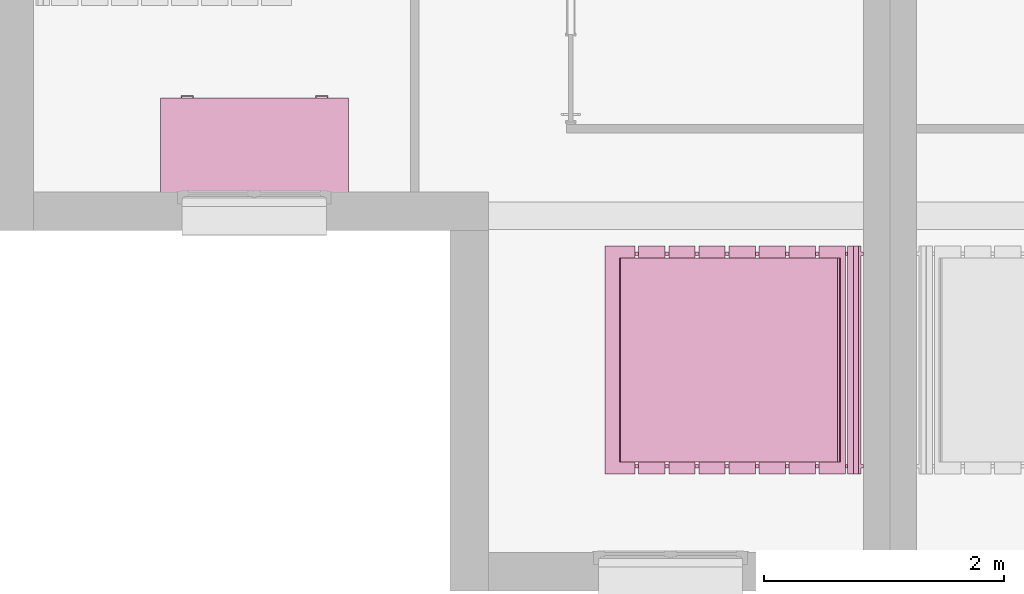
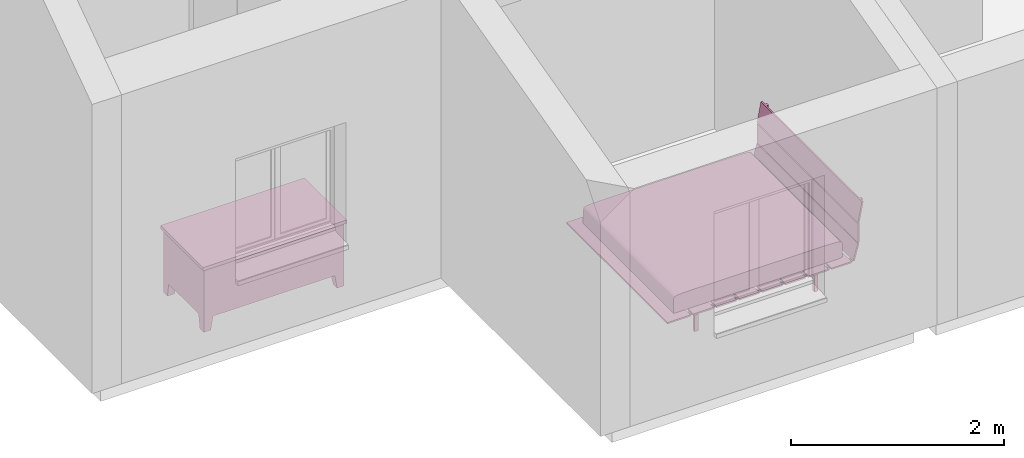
# One storey, part 42 of 50: 2 furnishings.
"""IFC2X3 building model written with IfcOpenShell, lengths in metres."""

from ifc_helpers import new_model, entity, si_unit, converted_unit, derived_unit, direction, frame, frame_2d, origin, origin_2d_with_axis, place, context, subcontext, project, spatial, polyline, circle_curve, parameter, trimmed, segment, composite_curve, rectangle, outline, extrude, faceted_brep, source, transform, mapped, material, material_list, type_object, type_shapes, element, save


model = new_model("IFC2X3")

# Units and contexts
model_context = context("Model", 3, precision=1e-05, world=origin(), true_north=direction((6.12303176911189e-17, 1.0)))
context_of_model = context(None, 3, precision=1e-05, world=origin(), true_north=direction((6.12303176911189e-17, 1.0)))
body_context = subcontext(model_context, "Body", "Model", "MODEL_VIEW")
ifc_project = project(units=[si_unit("LENGTHUNIT", "METRE"), si_unit("AREAUNIT", "SQUARE_METRE"), si_unit("VOLUMEUNIT", "CUBIC_METRE"), converted_unit("PLANEANGLEUNIT", "DEGREE", entity("IfcRatioMeasure", 0.0174532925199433), si_unit("PLANEANGLEUNIT", "RADIAN"), dimensions=[0, 0, 0, 0, 0, 0, 0]), si_unit("MASSUNIT", "GRAM", prefix="KILO"), si_unit("TIMEUNIT", "SECOND"), si_unit("FREQUENCYUNIT", "HERTZ"), si_unit("THERMODYNAMICTEMPERATUREUNIT", "DEGREE_CELSIUS"), derived_unit("THERMALTRANSMITTANCEUNIT", [(si_unit("MASSUNIT", "GRAM", prefix="KILO"), 1), (si_unit("THERMODYNAMICTEMPERATUREUNIT", "KELVIN"), -1), (si_unit("TIMEUNIT", "SECOND"), -3)]), derived_unit("VOLUMETRICFLOWRATEUNIT", [(si_unit("LENGTHUNIT", "METRE"), 3), (si_unit("TIMEUNIT", "SECOND"), -1)]), si_unit("ELECTRICCURRENTUNIT", "AMPERE"), si_unit("ELECTRICVOLTAGEUNIT", "VOLT"), si_unit("POWERUNIT", "WATT"), si_unit("FORCEUNIT", "NEWTON", prefix="KILO"), si_unit("ILLUMINANCEUNIT", "LUX"), si_unit("LUMINOUSFLUXUNIT", "LUMEN"), si_unit("LUMINOUSINTENSITYUNIT", "CANDELA"), si_unit("PRESSUREUNIT", "PASCAL")], contexts=[model_context, context_of_model])

# Site, building, storey
site_placement = place(None, origin())
site = spatial("IfcSite", under=ifc_project, at=site_placement, Name="Surface", CompositionType="ELEMENT")
building_placement = place(site_placement, origin())
building = spatial("IfcBuilding", under=site, at=building_placement, CompositionType="ELEMENT")
storey_placement = place(building_placement, frame((0.0, 0.0, 2.82)))
storey = spatial("IfcBuildingStorey", under=building, at=storey_placement, Name="ETAGE", CompositionType="ELEMENT", Elevation=2.82)

# Furnishings
ifc_material_1 = material(Name="Textile - Bleu pâle")
ifc_material_2 = material(Name="Bois - Teck")
ifc_material_3 = material(Name="Plastique - Noir")
ifc_material_list_1 = material_list([ifc_material_1, ifc_material_2, ifc_material_3])
ifc_material_list_2 = material_list([ifc_material_1, ifc_material_2, ifc_material_3])
furniture_type_1 = type_object("IfcFurnitureType", Name="1900 mm x 2000 mm", AssemblyPlace="NOTDEFINED", material=ifc_material_list_2)
shared_shape_1 = source(origin(), body_context, "Body", "SweptSolid", [
    extrude(outline(composite_curve([segment(polyline([(0.753947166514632, -0.0964613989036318), (0.883258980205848, -0.0964613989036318)]), True, "CONTINUOUS"), segment(trimmed(circle_curve(frame_2d((0.82804087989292, 1.1581587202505), x_axis=(0.999878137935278, -0.0156111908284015)), 1.25583465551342), [parameter(273.414556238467)], [parameter(275.726345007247)], True, "PARAMETER"), True, "CONTINUOUS"), segment(trimmed(circle_curve(frame_2d((0.929150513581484, -0.0379486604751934), x_axis=(0.999878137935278, -0.0156111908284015)), 0.0554613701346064), [parameter(275.726345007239)], [parameter(297.64810869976)], True, "PARAMETER"), True, "CONTINUOUS"), segment(trimmed(circle_curve(frame_2d((0.943544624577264, -0.0665015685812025), x_axis=(0.999878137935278, -0.0156111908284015)), 0.0234854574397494), [parameter(297.648108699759)], [parameter(348.570161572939)], True, "PARAMETER"), True, "CONTINUOUS"), segment(trimmed(circle_curve(frame_2d((0.767446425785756, -0.0280276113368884), x_axis=(0.999878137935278, -0.0156111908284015)), 0.203737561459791), [parameter(348.570161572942)], [parameter(3.56222124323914e-13)], True, "PARAMETER"), True, "CONTINUOUS"), segment(polyline([(0.971159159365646, -0.0312081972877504), (0.97301851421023, 0.0878812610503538)]), True, "CONTINUOUS"), segment(polyline([(0.97301851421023, 0.0878812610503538), (0.971187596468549, 0.10002359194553)]), True, "CONTINUOUS"), segment(polyline([(0.971187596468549, 0.10002359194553), (0.955059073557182, 0.102294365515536)]), True, "CONTINUOUS"), segment(polyline([(0.955059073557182, 0.102294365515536), (-0.834665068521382, 0.130237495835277)]), True, "CONTINUOUS"), segment(polyline([(-0.834665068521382, 0.130237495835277), (-0.854928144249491, 0.12651595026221)]), True, "CONTINUOUS"), segment(polyline([(-0.854928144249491, 0.12651595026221), (-0.861114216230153, 0.118536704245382)]), True, "CONTINUOUS"), segment(polyline([(-0.861114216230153, 0.118536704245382), (-0.865626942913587, 0.0883228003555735)]), True, "CONTINUOUS"), segment(polyline([(-0.865626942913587, 0.0883228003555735), (-0.866982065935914, 0.00152878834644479)]), True, "CONTINUOUS"), segment(polyline([(-0.866982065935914, 0.00152878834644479), (-0.863446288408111, -0.0308297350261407)]), True, "CONTINUOUS"), segment(polyline([(-0.863446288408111, -0.0308297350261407), (-0.857669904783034, -0.0490905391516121)]), True, "CONTINUOUS"), segment(polyline([(-0.857669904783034, -0.0490905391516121), (-0.843687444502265, -0.0594036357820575)]), True, "CONTINUOUS"), segment(polyline([(-0.843687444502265, -0.0594036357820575), (-0.817521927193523, -0.0658690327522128)]), True, "CONTINUOUS"), segment(polyline([(-0.817521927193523, -0.0658690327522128), (-0.696416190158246, -0.0738167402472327)]), True, "CONTINUOUS"), segment(polyline([(-0.696416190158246, -0.0738167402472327), (0.753947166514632, -0.0964613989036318)]), True, "CONTINUOUS")], self_intersect=False)), frame((-0.85, -1.05656455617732, 0.367191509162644), z_axis=(1.0, 0.0, 0.0), x_axis=(0.0, -0.999878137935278, -0.0156111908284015)), (0.0, 0.0, 1.0), 1.7),
    extrude(rectangle(XDim=0.249999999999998, YDim=1.9, at=origin_2d_with_axis()), frame((0.0, -2.02499620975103, 0.232311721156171), z_axis=(0.0, 0.0, 1.0), x_axis=(0.0, 1.0, 0.0)), (0.0, 0.0, 1.0), 0.0176882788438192),
    extrude(outline(polyline([(-0.00463256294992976, -0.115042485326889), (0.0130278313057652, -0.115042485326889), (0.00471132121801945, 0.115371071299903), (-0.0131065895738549, 0.114713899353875), (-0.00463256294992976, -0.115042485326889)])), frame((-0.95, -0.051324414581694, 0.783374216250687), z_axis=(1.0, 0.0, 0.0), x_axis=(0.0, 0.975885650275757, -0.218282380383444)), (0.0, 0.0, 1.0), 1.9),
    extrude(rectangle(XDim=0.219999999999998, YDim=1.9, at=frame_2d((-1.38777878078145e-16, 0.0), x_axis=(1.0, 0.0))), frame((0.0, -1.75999620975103, 0.232311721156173), z_axis=(0.0, 0.0, 1.0), x_axis=(0.0, 1.0, 0.0)), (0.0, 0.0, 1.0), 0.0176882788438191),
    extrude(rectangle(XDim=0.219999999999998, YDim=1.9, at=frame_2d((-1.31838984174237e-16, 0.0), x_axis=(1.0, 0.0))), frame((0.0, -1.50999620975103, 0.232311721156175), z_axis=(0.0, 0.0, 1.0), x_axis=(0.0, 1.0, 0.0)), (0.0, 0.0, 1.0), 0.017688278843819),
    extrude(rectangle(XDim=0.219999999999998, YDim=1.9, at=frame_2d((-1.38777878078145e-16, 0.0), x_axis=(1.0, 0.0))), frame((0.0, -1.25999620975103, 0.232311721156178), z_axis=(0.0, 0.0, 1.0), x_axis=(0.0, 1.0, 0.0)), (0.0, 0.0, 1.0), 0.0176882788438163),
    extrude(rectangle(XDim=0.219999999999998, YDim=1.9, at=frame_2d((6.93889390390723e-17, 0.0), x_axis=(1.0, 0.0))), frame((0.0, -1.00999620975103, 0.232311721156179), z_axis=(0.0, 0.0, 1.0), x_axis=(0.0, 1.0, 0.0)), (0.0, 0.0, 1.0), 0.0176882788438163),
    extrude(rectangle(XDim=0.22, YDim=1.9, at=origin_2d_with_axis()), frame((0.0, -0.759996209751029, 0.232311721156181), z_axis=(0.0, 0.0, 1.0), x_axis=(0.0, 1.0, 0.0)), (0.0, 0.0, 1.0), 0.0176882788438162),
    extrude(rectangle(XDim=0.22, YDim=1.9, at=origin_2d_with_axis()), frame((0.0, -0.509996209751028, 0.232311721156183), z_axis=(0.0, 0.0, 1.0), x_axis=(0.0, 1.0, 0.0)), (0.0, 0.0, 1.0), 0.0176882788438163),
    extrude(rectangle(XDim=0.22, YDim=1.9, at=origin_2d_with_axis()), frame((0.0, -0.259996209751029, 0.232311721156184), z_axis=(0.0, 0.0, 1.0), x_axis=(0.0, 1.0, 0.0)), (0.0, 0.0, 1.0), 0.0176882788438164),
    extrude(rectangle(XDim=0.0183684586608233, YDim=1.9, at=origin_2d_with_axis()), frame((0.0, -0.0735868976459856, 0.443802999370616), z_axis=(0.0, 0.0, 1.0), x_axis=(0.0, 1.0, 0.0)), (0.0, 0.0, 1.0), 0.214481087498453),
    extrude(outline(polyline([(-0.0111603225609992, -0.093944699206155), (0.00684599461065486, -0.093944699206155), (0.0109625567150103, 0.0940897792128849), (-0.00664822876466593, 0.093799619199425), (-0.0111603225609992, -0.093944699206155)])), frame((-0.95, -0.100341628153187, 0.340588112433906), z_axis=(1.0, 0.0, 0.0), x_axis=(0.0, 0.969329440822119, -0.245764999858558)), (0.0, 0.0, 1.0), 1.9),
    extrude(rectangle(XDim=0.0421792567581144, YDim=0.0299999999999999, at=frame_2d((0.0, 1.35308431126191e-16), x_axis=(1.0, 0.0))), frame((-0.884999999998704, -1.80439834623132, 0.0), z_axis=(0.0, 0.0, 1.0), x_axis=(0.0, -1.0, 0.0)), (0.0, 0.0, 1.0), 0.204645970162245),
    extrude(rectangle(XDim=0.0421792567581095, YDim=0.0299999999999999, at=frame_2d((3.29597460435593e-17, 1.35308431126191e-16), x_axis=(1.0, 0.0))), frame((-0.884999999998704, -0.505017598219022, 0.0), z_axis=(0.0, 0.0, 1.0), x_axis=(0.0, -1.0, 0.0)), (0.0, 0.0, 1.0), 0.204645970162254),
    extrude(rectangle(XDim=0.0421792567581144, YDim=0.0299999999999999, at=frame_2d((2.70616862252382e-16, 0.0), x_axis=(1.0, 0.0))), frame((0.885000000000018, -1.80439834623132, 0.0), z_axis=(0.0, 0.0, 1.0), x_axis=(0.0, 1.0, 0.0)), (0.0, 0.0, 1.0), 0.204645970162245),
    extrude(rectangle(XDim=0.0421792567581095, YDim=0.0299999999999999, at=frame_2d((-3.29597460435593e-17, 0.0), x_axis=(1.0, 0.0))), frame((0.885000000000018, -0.505017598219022, 0.0), z_axis=(0.0, 0.0, 1.0), x_axis=(0.0, 1.0, 0.0)), (0.0, 0.0, 1.0), 0.204645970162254),
    extrude(outline(composite_curve([segment(polyline([(-0.333462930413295, -0.507724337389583), (-0.311650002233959, -0.507724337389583)]), True, "CONTINUOUS"), segment(polyline([(-0.311650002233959, -0.507724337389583), (-0.317185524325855, -0.272424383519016)]), True, "CONTINUOUS"), segment(polyline([(-0.317185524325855, -0.272424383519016), (-0.363847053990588, -0.050782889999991)]), True, "CONTINUOUS"), segment(polyline([(-0.363847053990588, -0.050782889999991), (-0.350538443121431, 0.161194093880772)]), True, "CONTINUOUS"), segment(polyline([(-0.350538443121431, 0.161194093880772), (1.5836166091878, 0.569312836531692)]), True, "CONTINUOUS"), segment(polyline([(1.5836166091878, 0.569312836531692), (1.55147511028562, 0.589891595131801)]), True, "CONTINUOUS"), segment(polyline([(1.55147511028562, 0.589891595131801), (-0.355855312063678, 0.188346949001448)]), True, "CONTINUOUS"), segment(trimmed(circle_curve(frame_2d((-0.350332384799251, 0.162113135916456), x_axis=(0.978549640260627, 0.206011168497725)), 0.0268088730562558), [parameter(90.0)], [parameter(167.367566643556)], True, "PARAMETER"), True, "CONTINUOUS"), segment(polyline([(-0.377138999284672, 0.162461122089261), (-0.386037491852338, -0.0554545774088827)]), True, "CONTINUOUS"), segment(polyline([(-0.386037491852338, -0.0554545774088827), (-0.339375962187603, -0.277096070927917)]), True, "CONTINUOUS"), segment(polyline([(-0.339375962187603, -0.277096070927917), (-0.333462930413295, -0.507724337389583)]), True, "CONTINUOUS")], self_intersect=False)), frame((-0.899999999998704, -0.430906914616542, 0.462262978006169), z_axis=(1.0, 0.0, 0.0), x_axis=(0.0, -0.978549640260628, 0.206011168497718)), (0.0, 0.0, 1.0), 0.0299999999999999),
    extrude(outline(composite_curve([segment(polyline([(-0.333462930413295, -0.507724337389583), (-0.311650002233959, -0.507724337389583)]), True, "CONTINUOUS"), segment(polyline([(-0.311650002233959, -0.507724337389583), (-0.317185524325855, -0.272424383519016)]), True, "CONTINUOUS"), segment(polyline([(-0.317185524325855, -0.272424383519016), (-0.363847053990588, -0.0507828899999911)]), True, "CONTINUOUS"), segment(polyline([(-0.363847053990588, -0.0507828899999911), (-0.350538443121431, 0.161194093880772)]), True, "CONTINUOUS"), segment(polyline([(-0.350538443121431, 0.161194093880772), (1.5836166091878, 0.569312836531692)]), True, "CONTINUOUS"), segment(polyline([(1.5836166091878, 0.569312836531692), (1.55147511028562, 0.5898915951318)]), True, "CONTINUOUS"), segment(polyline([(1.55147511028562, 0.5898915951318), (-0.355855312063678, 0.188346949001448)]), True, "CONTINUOUS"), segment(trimmed(circle_curve(frame_2d((-0.350332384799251, 0.162113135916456), x_axis=(0.978549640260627, 0.206011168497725)), 0.0268088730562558), [parameter(90.0)], [parameter(167.367566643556)], True, "PARAMETER"), True, "CONTINUOUS"), segment(polyline([(-0.377138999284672, 0.162461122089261), (-0.386037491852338, -0.0554545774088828)]), True, "CONTINUOUS"), segment(polyline([(-0.386037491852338, -0.0554545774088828), (-0.339375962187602, -0.277096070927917)]), True, "CONTINUOUS"), segment(polyline([(-0.339375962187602, -0.277096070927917), (-0.333462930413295, -0.507724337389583)]), True, "CONTINUOUS")], self_intersect=False)), frame((0.870000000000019, -0.430906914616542, 0.462262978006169), z_axis=(1.0, 0.0, 0.0), x_axis=(0.0, -0.978549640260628, 0.206011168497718)), (0.0, 0.0, 1.0), 0.0299999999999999),
])
type_shapes(furniture_type_1, [shared_shape_1])
furnishing_1_placement = place(storey_placement, frame((68.6146263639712, 78.8077566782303, 0.0199999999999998), z_axis=(0.0, 0.0, 1.0), x_axis=(0.0, -1.0, 0.0)))
element("IfcFurnishingElement", 1, at=furnishing_1_placement, inside=storey, type_object=furniture_type_1, material=ifc_material_list_1, Name="Lit à lattes:1900 mm x 2000 mm", ObjectType="1900 mm x 2000 mm", context=body_context, shape_type="MappedRepresentation", body=[
    mapped(shared_shape_1, transform((0.0, 0.0, 0.0), scale=1.0)),
])
ifc_material_4 = material(Name="Bois - Mélaminé ivoire")
ifc_material_5 = material(Name="Métal - Chrome")
ifc_material_6 = material(Name="Bois - Cerisier")
ifc_material_list_3 = material_list([ifc_material_4, ifc_material_5, ifc_material_6])
ifc_material_list_4 = material_list([ifc_material_4, ifc_material_5, ifc_material_6])
furniture_type_2 = type_object("IfcFurnitureType", Name="1525 mm x 762 mm", AssemblyPlace="NOTDEFINED", material=ifc_material_list_4)
shared_shape_2 = source(origin(), body_context, "Body", "Brep", [
    faceted_brep([(1.13765, -0.761999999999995, 0.70485), (1.50595, -0.761999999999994, 0.70485), (1.50595, -0.761999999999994, 0.60325), (1.13765, -0.761999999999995, 0.60325), (1.13765, -0.774699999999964, 0.60325), (1.13765, -0.774699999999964, 0.70485), (1.50595, -0.774699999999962, 0.60325), (1.50595, -0.774699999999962, 0.70485)], [[[0, 1, 2, 3]], [[3, 4, 5, 0]], [[2, 6, 4, 3]], [[1, 7, 6, 2]], [[0, 5, 7, 1]], [[5, 4, 6, 7]]]),
    faceted_brep([(1.50595, -0.774699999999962, 0.5842), (1.13765, -0.774699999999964, 0.5842), (1.13765, -0.774699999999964, 0.17105), (1.50595, -0.774699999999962, 0.17105), (1.13765, -0.761999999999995, 0.5842), (1.50595, -0.761999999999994, 0.5842), (1.13765, -0.761999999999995, 0.17105), (1.50595, -0.761999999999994, 0.17105)], [[[0, 1, 2, 3]], [[4, 1, 0, 5]], [[6, 2, 1, 4]], [[7, 3, 2, 6]], [[5, 0, 3, 7]], [[5, 7, 6, 4]]]),
    faceted_brep([(0.38735, -0.761999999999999, 0.70485), (0.38735, -0.761999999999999, 0.60285), (0.01905, -0.761999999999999, 0.60285), (0.01905, -0.761999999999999, 0.70485), (0.01905, -0.774700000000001, 0.70485), (0.38735, -0.774700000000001, 0.70485), (0.01905, -0.774700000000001, 0.60285), (0.38735, -0.774700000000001, 0.60285)], [[[0, 1, 2, 3]], [[3, 4, 5, 0]], [[2, 6, 4, 3]], [[1, 7, 6, 2]], [[0, 5, 7, 1]], [[5, 4, 6, 7]]]),
    faceted_brep([(0.01905, -0.774700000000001, 0.5838), (0.01905, -0.774700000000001, 0.4822), (0.38735, -0.774700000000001, 0.4822), (0.38735, -0.774700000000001, 0.5838), (0.01905, -0.761999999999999, 0.4822), (0.01905, -0.761999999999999, 0.5838), (0.38735, -0.761999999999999, 0.4822), (0.38735, -0.761999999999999, 0.5838)], [[[0, 1, 2, 3]], [[4, 1, 0, 5]], [[6, 2, 1, 4]], [[7, 3, 2, 6]], [[5, 0, 3, 7]], [[5, 7, 6, 4]]]),
    faceted_brep([(0.01905, -0.761999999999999, 0.17105), (0.01905, -0.774700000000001, 0.17105), (0.01905, -0.774700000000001, 0.3425), (0.01905, -0.761999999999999, 0.3425), (0.38735, -0.761999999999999, 0.17105), (0.38735, -0.774700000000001, 0.17105), (0.38735, -0.761999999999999, 0.3425), (0.38735, -0.774700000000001, 0.3425)], [[[0, 1, 2, 3]], [[4, 5, 1, 0]], [[6, 7, 5, 4]], [[3, 2, 7, 6]], [[2, 1, 5, 7]], [[3, 6, 4, 0]]]),
    faceted_brep([(0.01905, -0.761999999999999, 0.36155), (0.01905, -0.774700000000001, 0.36155), (0.01905, -0.774700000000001, 0.46315), (0.01905, -0.761999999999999, 0.46315), (0.38735, -0.761999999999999, 0.36155), (0.38735, -0.774700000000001, 0.36155), (0.38735, -0.761999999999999, 0.46315), (0.38735, -0.774700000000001, 0.46315)], [[[0, 1, 2, 3]], [[4, 5, 1, 0]], [[6, 7, 5, 4]], [[3, 2, 7, 6]], [[2, 1, 5, 7]], [[3, 6, 4, 0]]]),
    faceted_brep([(1.42339999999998, -0.761999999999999, 0.152), (1.52499999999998, -0.761999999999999, 0.152), (1.52499999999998, -0.660399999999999, 0.152), (1.42339999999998, -0.660399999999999, 0.152), (1.44879999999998, -0.762, 0.0), (1.44879999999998, -0.6858, 0.0), (1.52499999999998, -0.6858, 0.0), (1.52499999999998, -0.762, 0.0)], [[[0, 1, 2, 3]], [[4, 5, 6, 7]], [[4, 0, 3, 5]], [[5, 3, 2, 6]], [[6, 2, 1, 7]], [[7, 1, 0, 4]]]),
    faceted_brep([(1.4234, 0.0, 0.152), (1.4234, -0.1016, 0.152), (1.525, -0.1016, 0.152), (1.525, 0.0, 0.152), (1.4488, 0.0, 0.0), (1.525, 0.0, 0.0), (1.525, -0.0761999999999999, 0.0), (1.4488, -0.0761999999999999, 0.0)], [[[0, 1, 2, 3]], [[4, 5, 6, 7]], [[4, 0, 3, 5]], [[5, 3, 2, 6]], [[6, 2, 1, 7]], [[7, 1, 0, 4]]]),
    faceted_brep([(0.1016, 0.0, 0.152), (0.0, 0.0, 0.152), (0.0, -0.1016, 0.152), (0.1016, -0.1016, 0.152), (0.0762, 0.0, 0.0), (0.0762, -0.0761999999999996, 0.0), (0.0, -0.0761999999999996, 0.0), (0.0, 0.0, 0.0)], [[[0, 1, 2, 3]], [[4, 5, 6, 7]], [[4, 0, 3, 5]], [[5, 3, 2, 6]], [[6, 2, 1, 7]], [[7, 1, 0, 4]]]),
    faceted_brep([(0.1016, -0.762000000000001, 0.152), (0.1016, -0.660400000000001, 0.152), (0.0, -0.660400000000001, 0.152), (0.0, -0.762000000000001, 0.152), (0.0761999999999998, -0.762000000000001, 0.0), (0.0, -0.762000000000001, 0.0), (0.0, -0.685800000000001, 0.0), (0.0761999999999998, -0.685800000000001, 0.0)], [[[0, 1, 2, 3]], [[4, 5, 6, 7]], [[4, 0, 3, 5]], [[5, 3, 2, 6]], [[6, 2, 1, 7]], [[7, 1, 0, 4]]]),
    faceted_brep([(0.4064, -0.761999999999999, 0.723900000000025), (0.4064, -0.0508000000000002, 0.723900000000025), (1.11860000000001, -0.0508000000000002, 0.723900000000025), (1.11860000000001, -0.761999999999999, 0.723900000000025), (1.525, -0.761999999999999, 0.723900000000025), (1.525, 0.0, 0.723900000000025), (0.0, 0.0, 0.723900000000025), (0.0, -0.761999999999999, 0.723900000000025), (0.4064, -0.761999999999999, 0.152), (0.0, -0.761999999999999, 0.152), (0.0, 0.0, 0.152), (1.525, 0.0, 0.152), (1.525, -0.761999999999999, 0.152), (1.11860000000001, -0.761999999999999, 0.152), (1.11860000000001, -0.0508000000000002, 0.152), (0.4064, -0.0508000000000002, 0.152)], [[[0, 1, 2, 3, 4, 5, 6, 7]], [[8, 9, 10, 11, 12, 13, 14, 15]], [[7, 9, 8, 0]], [[6, 10, 9, 7]], [[5, 11, 10, 6]], [[4, 12, 11, 5]], [[3, 13, 12, 4]], [[2, 14, 13, 3]], [[1, 15, 14, 2]], [[0, 8, 15, 1]]]),
    faceted_brep([(1.54405000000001, -0.781049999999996, 0.761999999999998), (1.54405000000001, 0.0190500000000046, 0.761999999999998), (-0.0190499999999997, 0.0190500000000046, 0.761999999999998), (-0.0190499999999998, -0.781049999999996, 0.761999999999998), (1.54405000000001, -0.781049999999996, 0.723900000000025), (-0.0190499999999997, -0.781049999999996, 0.723900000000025), (-0.0190499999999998, 0.0190500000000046, 0.723900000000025), (1.54405000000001, 0.0190500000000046, 0.723900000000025)], [[[0, 1, 2, 3]], [[4, 5, 6, 7]], [[3, 5, 4, 0]], [[2, 6, 5, 3]], [[1, 7, 6, 2]], [[0, 4, 7, 1]]]),
    faceted_brep([(1.36624999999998, -0.774699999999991, 0.546100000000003), (1.37259999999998, -0.774699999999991, 0.546100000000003), (1.37259999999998, -0.774699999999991, 0.533399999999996), (1.36624999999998, -0.774699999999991, 0.533399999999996), (1.36624999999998, -0.793749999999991, 0.533399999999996), (1.36624999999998, -0.793749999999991, 0.546100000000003), (1.37259999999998, -0.80009999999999, 0.533399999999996), (1.37259999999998, -0.80009999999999, 0.546100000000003), (1.27734999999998, -0.793749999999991, 0.533399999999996), (1.27734999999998, -0.793749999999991, 0.546100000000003), (1.27099999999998, -0.80009999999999, 0.533399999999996), (1.27099999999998, -0.80009999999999, 0.546100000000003), (1.27734999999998, -0.774699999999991, 0.533399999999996), (1.27734999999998, -0.774699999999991, 0.546100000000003), (1.27099999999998, -0.774699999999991, 0.533399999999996), (1.27099999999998, -0.774699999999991, 0.546100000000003)], [[[0, 1, 2, 3]], [[3, 4, 5, 0]], [[2, 6, 4, 3]], [[1, 7, 6, 2]], [[0, 5, 7, 1]], [[4, 8, 9, 5]], [[6, 10, 8, 4]], [[7, 11, 10, 6]], [[5, 9, 11, 7]], [[8, 12, 13, 9]], [[10, 14, 12, 8]], [[11, 15, 14, 10]], [[9, 13, 15, 11]], [[13, 12, 14, 15]]]),
    faceted_brep([(1.36624999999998, -0.774699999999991, 0.654050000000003), (1.36624999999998, -0.79374999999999, 0.654050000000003), (1.36624999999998, -0.79374999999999, 0.666750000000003), (1.36624999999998, -0.774699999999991, 0.666750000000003), (1.37259999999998, -0.774699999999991, 0.654050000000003), (1.37259999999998, -0.800099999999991, 0.654050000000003), (1.37259999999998, -0.774699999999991, 0.666750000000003), (1.37259999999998, -0.800099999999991, 0.666750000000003), (1.27734999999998, -0.79374999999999, 0.654050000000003), (1.27734999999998, -0.79374999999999, 0.666750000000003), (1.27099999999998, -0.800099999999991, 0.654050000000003), (1.27099999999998, -0.800099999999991, 0.666750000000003), (1.27734999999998, -0.774699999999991, 0.666750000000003), (1.27734999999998, -0.774699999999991, 0.654050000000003), (1.27099999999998, -0.774699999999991, 0.654050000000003), (1.27099999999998, -0.774699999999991, 0.666750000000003)], [[[0, 1, 2, 3]], [[4, 5, 1, 0]], [[6, 7, 5, 4]], [[3, 2, 7, 6]], [[1, 8, 9, 2]], [[5, 10, 8, 1]], [[7, 11, 10, 5]], [[2, 9, 11, 7]], [[12, 13, 14, 15]], [[8, 13, 12, 9]], [[10, 14, 13, 8]], [[11, 15, 14, 10]], [[9, 12, 15, 11]], [[3, 6, 4, 0]]]),
    faceted_brep([(0.15875, -0.774699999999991, 0.3048), (0.15875, -0.774699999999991, 0.2921), (0.1524, -0.774699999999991, 0.2921), (0.1524, -0.774699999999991, 0.3048), (0.1524, -0.800099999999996, 0.3048), (0.15875, -0.793749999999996, 0.3048), (0.1524, -0.800099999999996, 0.2921), (0.15875, -0.793749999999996, 0.2921), (0.254, -0.800099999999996, 0.3048), (0.24765, -0.793749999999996, 0.3048), (0.254, -0.800099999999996, 0.2921), (0.24765, -0.793749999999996, 0.2921), (0.254, -0.774699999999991, 0.3048), (0.24765, -0.774699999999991, 0.3048), (0.254, -0.774699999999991, 0.2921), (0.24765, -0.774699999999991, 0.2921)], [[[0, 1, 2, 3]], [[3, 4, 5, 0]], [[2, 6, 4, 3]], [[1, 7, 6, 2]], [[0, 5, 7, 1]], [[4, 8, 9, 5]], [[6, 10, 8, 4]], [[7, 11, 10, 6]], [[5, 9, 11, 7]], [[8, 12, 13, 9]], [[10, 14, 12, 8]], [[11, 15, 14, 10]], [[9, 13, 15, 11]], [[13, 12, 14, 15]]]),
    faceted_brep([(0.1524, -0.774699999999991, 0.425450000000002), (0.1524, -0.800099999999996, 0.425450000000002), (0.15875, -0.793749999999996, 0.425450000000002), (0.15875, -0.774699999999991, 0.425450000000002), (0.1524, -0.774699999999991, 0.412750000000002), (0.1524, -0.800099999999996, 0.412750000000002), (0.15875, -0.774699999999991, 0.412750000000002), (0.15875, -0.793749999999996, 0.412750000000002), (0.254, -0.800099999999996, 0.425450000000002), (0.24765, -0.793749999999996, 0.425450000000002), (0.254, -0.800099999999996, 0.412750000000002), (0.24765, -0.793749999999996, 0.412750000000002), (0.254, -0.774699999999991, 0.425450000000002), (0.24765, -0.774699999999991, 0.425450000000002), (0.254, -0.774699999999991, 0.412750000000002), (0.24765, -0.774699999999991, 0.412750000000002)], [[[0, 1, 2, 3]], [[4, 5, 1, 0]], [[6, 7, 5, 4]], [[3, 2, 7, 6]], [[1, 8, 9, 2]], [[5, 10, 8, 1]], [[7, 11, 10, 5]], [[2, 9, 11, 7]], [[8, 12, 13, 9]], [[10, 14, 12, 8]], [[11, 15, 14, 10]], [[9, 13, 15, 11]], [[13, 12, 14, 15]], [[3, 6, 4, 0]]]),
    faceted_brep([(0.1524, -0.774699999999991, 0.5461), (0.1524, -0.800099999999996, 0.5461), (0.15875, -0.793749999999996, 0.5461), (0.15875, -0.774699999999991, 0.5461), (0.1524, -0.774699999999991, 0.5334), (0.1524, -0.800099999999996, 0.5334), (0.15875, -0.774699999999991, 0.5334), (0.15875, -0.793749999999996, 0.5334), (0.254, -0.800099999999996, 0.5461), (0.24765, -0.793749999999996, 0.5461), (0.254, -0.800099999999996, 0.5334), (0.24765, -0.793749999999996, 0.5334), (0.254, -0.774699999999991, 0.5461), (0.24765, -0.774699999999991, 0.5461), (0.254, -0.774699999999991, 0.5334), (0.24765, -0.774699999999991, 0.5334)], [[[0, 1, 2, 3]], [[4, 5, 1, 0]], [[6, 7, 5, 4]], [[3, 2, 7, 6]], [[1, 8, 9, 2]], [[5, 10, 8, 1]], [[7, 11, 10, 5]], [[2, 9, 11, 7]], [[8, 12, 13, 9]], [[10, 14, 12, 8]], [[11, 15, 14, 10]], [[9, 13, 15, 11]], [[13, 12, 14, 15]], [[3, 6, 4, 0]]]),
    faceted_brep([(0.1524, -0.774699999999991, 0.666750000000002), (0.1524, -0.800099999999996, 0.666750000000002), (0.15875, -0.793749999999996, 0.666750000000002), (0.15875, -0.774699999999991, 0.666750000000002), (0.1524, -0.774699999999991, 0.654050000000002), (0.1524, -0.800099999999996, 0.654050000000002), (0.15875, -0.774699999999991, 0.654050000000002), (0.15875, -0.793749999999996, 0.654050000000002), (0.254, -0.800099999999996, 0.666750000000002), (0.24765, -0.793749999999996, 0.666750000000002), (0.254, -0.800099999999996, 0.654050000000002), (0.24765, -0.793749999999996, 0.654050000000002), (0.24765, -0.774699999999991, 0.666750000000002), (0.254, -0.774699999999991, 0.666750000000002), (0.254, -0.774699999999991, 0.654050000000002), (0.24765, -0.774699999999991, 0.654050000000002)], [[[0, 1, 2, 3]], [[4, 5, 1, 0]], [[6, 7, 5, 4]], [[3, 2, 7, 6]], [[1, 8, 9, 2]], [[5, 10, 8, 1]], [[7, 11, 10, 5]], [[2, 9, 11, 7]], [[12, 13, 14, 15]], [[8, 13, 12, 9]], [[10, 14, 13, 8]], [[11, 15, 14, 10]], [[9, 12, 15, 11]], [[3, 6, 4, 0]]]),
])
type_shapes(furniture_type_2, [shared_shape_2])
furnishing_2_placement = place(storey_placement, frame((64.3096263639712, 80.2077566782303, 0.0199999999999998), z_axis=(0.0, 0.0, 1.0), x_axis=(-1.0, 0.0, 0.0)))
element("IfcFurnishingElement", 2, at=furnishing_2_placement, inside=storey, type_object=furniture_type_2, material=ifc_material_list_3, Name="Bureau commun:1525 mm x 762 mm", ObjectType="1525 mm x 762 mm", context=body_context, shape_type="MappedRepresentation", body=[
    mapped(shared_shape_2, transform((0.0, 0.0, 0.0), scale=1.0)),
])

save(model, "model.ifc")
